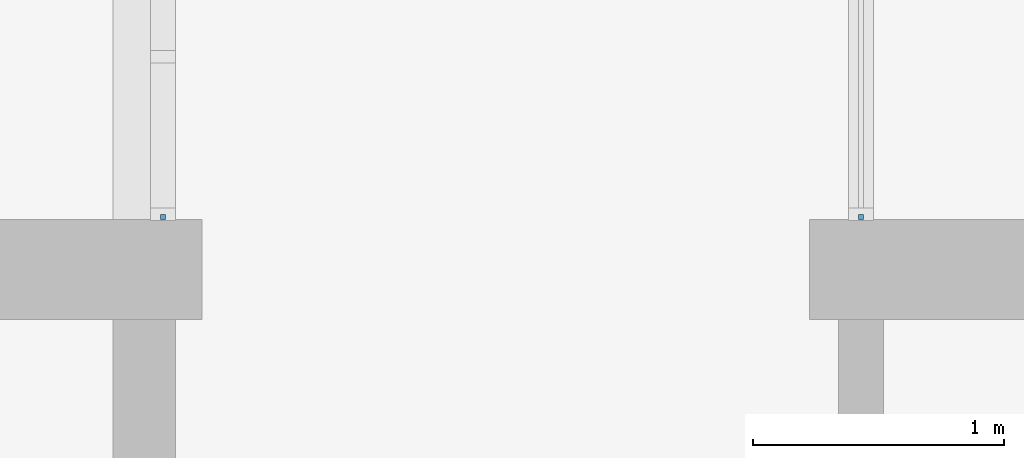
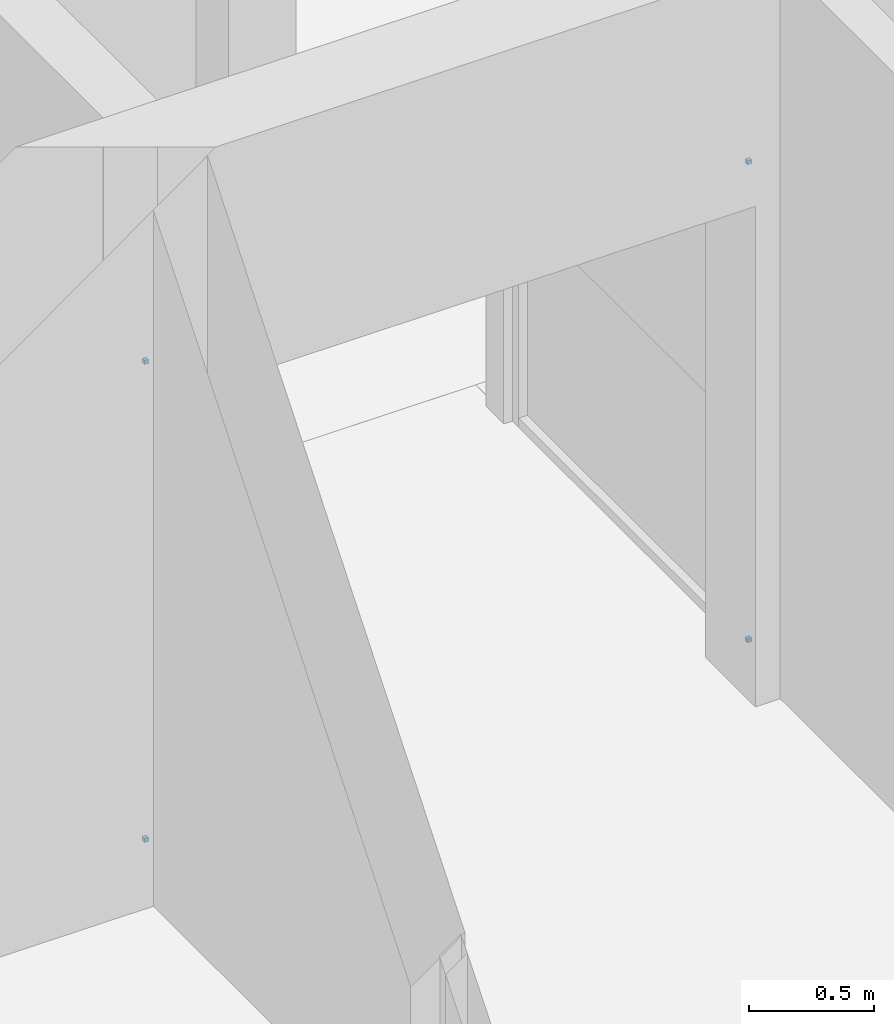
# One storey, part 58 of 117: 4 plates, 2 elements without a shape of their own.
"""IFC4 building model written with IfcOpenShell, lengths in metres."""

import ifcopenshell
import ifcopenshell.guid

model = None  # the IFC model being written
_history = None  # IfcOwnerHistory: only IFC2X3 demands one
_inside = {}  # id of a spatial element -> (the spatial element, [elements in it])
_under = {}  # id of a project, library or spatial element -> (it, [spatial elements below it])
_declared = {}  # id of a project -> (the project, [libraries it declares])
_typed = {}  # id of a type object -> (the type object, [elements of that type])
_made_of = {}  # id of a material, layer set ... -> (it, [elements and type objects made of it])


def new_model(schema):
    """Start an empty IFC model of exactly this schema.

    Asked for "IFC4X3", IfcOpenShell would pick the latest addendum, in which some entities
    have other attributes; the version numbers below select the first issue.
    IFC2X3 requires an IfcOwnerHistory on every rooted entity: one is made here for all.
    """
    global model, _history
    if schema == "IFC4X3":
        model = ifcopenshell.file(schema_version=(4, 3, 0, 0))
    else:
        model = ifcopenshell.file(schema=schema)
    _inside.clear()
    _under.clear()
    _declared.clear()
    _typed.clear()
    _made_of.clear()
    _history = None
    if model.schema == "IFC2X3":
        org = make("IfcOrganization", Name="unknown")
        user = make(
            "IfcPersonAndOrganization",
            ThePerson=make("IfcPerson", FamilyName="unknown"),
            TheOrganization=org,
        )
        app = make(
            "IfcApplication",
            ApplicationDeveloper=org,
            Version="unknown",
            ApplicationFullName="unknown",
            ApplicationIdentifier="unknown",
        )
        _history = make(
            "IfcOwnerHistory",
            OwningUser=user,
            OwningApplication=app,
            ChangeAction="ADDED",
            CreationDate=0,
        )
    return model


def make(cls, **values):
    """One entity of the class cls with the attributes given. An attribute that is None is left unset."""
    return model.create_entity(
        cls, **{name: value for name, value in values.items() if value is not None}
    )


def entity(cls, *values):
    """Any entity or typed value of the class cls, its attributes in the order of the schema. None: left unset."""
    e = model.create_entity(cls)
    for i, value in enumerate(values):
        if value is not None:
            e[i] = value
    return e


def rooted(cls, **values):
    """An entity with a GlobalId (a new one), such as an element, a storey or a relation."""
    return make(cls, GlobalId=ifcopenshell.guid.new(), OwnerHistory=_history, **values)


def si_unit(unit_type, name, prefix=None):
    """IfcSIUnit, for example si_unit("LENGTHUNIT", "METRE", prefix="MILLI")."""
    return make("IfcSIUnit", UnitType=unit_type, Prefix=prefix, Name=name)


def converted_unit(unit_type, name, factor, base, dimensions=None, offset=None):
    """IfcConversionBasedUnit, such as the inch: factor (a typed value) times the base unit."""
    return make(
        "IfcConversionBasedUnit"
        if offset is None
        else "IfcConversionBasedUnitWithOffset",
        ConversionOffset=offset,
        Dimensions=None
        if dimensions is None
        else entity("IfcDimensionalExponents", *dimensions),
        UnitType=unit_type,
        Name=name,
        ConversionFactor=make(
            "IfcMeasureWithUnit", ValueComponent=factor, UnitComponent=base
        ),
    )


def derived_unit(unit_type, elements):
    """IfcDerivedUnit: a product of units, each with its exponent."""
    return make(
        "IfcDerivedUnit",
        Elements=[
            make("IfcDerivedUnitElement", Unit=unit, Exponent=power)
            for unit, power in elements
        ],
        UnitType=unit_type,
    )


def assignment(units):
    """IfcUnitAssignment: the units of a project."""
    return None if units is None else make("IfcUnitAssignment", Units=units)


def point(xyz):
    """IfcCartesianPoint."""
    return None if xyz is None else make("IfcCartesianPoint", Coordinates=xyz)


def direction(xyz):
    """IfcDirection."""
    return None if xyz is None else make("IfcDirection", DirectionRatios=xyz)


def frame(location, z_axis=None, x_axis=None):
    """IfcAxis2Placement3D, a coordinate frame: its origin and axes. An axis left out is left unset."""
    return make(
        "IfcAxis2Placement3D",
        Location=point(location),
        Axis=direction(z_axis),
        RefDirection=direction(x_axis),
    )


def origin():
    """The frame at (0, 0, 0) with its axes left unset."""
    return frame((0.0, 0.0, 0.0))


def place(relative_to, where):
    """IfcLocalPlacement: puts the frame where relative to a parent placement (None: the world)."""
    return make(
        "IfcLocalPlacement", PlacementRelTo=relative_to, RelativePlacement=where
    )


def context(
    kind, dimensions, precision=None, world=None, true_north=None, identifier=None
):
    """IfcGeometricRepresentationContext, for example the 3D "Model" context."""
    return make(
        "IfcGeometricRepresentationContext",
        ContextIdentifier=identifier,
        ContextType=kind,
        CoordinateSpaceDimension=dimensions,
        Precision=precision,
        WorldCoordinateSystem=world,
        TrueNorth=true_north,
    )


def subcontext(parent, identifier, kind, view, scale=None):
    """IfcGeometricRepresentationSubContext, for example "Body" below "Model"."""
    return make(
        "IfcGeometricRepresentationSubContext",
        ContextIdentifier=identifier,
        ContextType=kind,
        ParentContext=parent,
        TargetScale=scale,
        TargetView=view,
    )


def project(units=None, contexts=None):
    """IfcProject with its units and contexts."""
    return rooted(
        "IfcProject",
        Name="project",
        RepresentationContexts=contexts,
        UnitsInContext=assignment(units),
    )


def spatial(cls, under=None, at=None, **own):
    """A site, building, storey or space (cls), placed at a placement, below another one or the project."""
    s = rooted(cls, ObjectPlacement=at, **own)
    if under is not None:
        _under.setdefault(under.id(), (under, []))[1].append(s)
    return s


def point_list(points):
    """IfcCartesianPointList2D or 3D."""
    cls = (
        "IfcCartesianPointList2D" if len(points[0]) == 2 else "IfcCartesianPointList3D"
    )
    return make(cls, CoordList=points)


def indexed_curve(points, segments=None, self_intersect=None):
    """IfcIndexedPolyCurve: lines and arcs through numbered points (the first is 1)."""
    return make(
        "IfcIndexedPolyCurve",
        Points=point_list(points),
        Segments=segments,
        SelfIntersect=self_intersect,
    )


def outline(outer, holes=None, kind="AREA"):
    """IfcArbitraryClosedProfileDef: a profile drawn as a closed curve; with holes, ...WithVoids."""
    if holes is None:
        return make("IfcArbitraryClosedProfileDef", ProfileType=kind, OuterCurve=outer)
    return make(
        "IfcArbitraryProfileDefWithVoids",
        ProfileType=kind,
        OuterCurve=outer,
        InnerCurves=holes,
    )


def extrude(swept, where, along, depth):
    """IfcExtrudedAreaSolid: the profile swept, set in the frame where, extruded along a direction by depth."""
    return make(
        "IfcExtrudedAreaSolid",
        SweptArea=swept,
        Position=where,
        ExtrudedDirection=direction(along),
        Depth=depth,
    )


def shape(context_of_items, identifier, shape_type, items):
    """IfcShapeRepresentation: the items that make up one representation, for example the "Body"."""
    return make(
        "IfcShapeRepresentation",
        ContextOfItems=context_of_items,
        RepresentationIdentifier=identifier,
        RepresentationType=shape_type,
        Items=items,
    )


def source(mapping_origin, context_of_items, identifier, shape_type, items):
    """IfcRepresentationMap: a shape defined once, which mapped items show again and again."""
    return make(
        "IfcRepresentationMap",
        MappingOrigin=mapping_origin,
        MappedRepresentation=shape(context_of_items, identifier, shape_type, items),
    )


def transform(
    local_origin,
    x_axis=None,
    y_axis=None,
    z_axis=None,
    scale=None,
    scale2=None,
    scale3=None,
    uniform=True,
):
    """IfcCartesianTransformationOperator3D, or its non-uniform kind. x_axis, y_axis, z_axis: its Axis1, 2, 3."""
    if uniform:
        return make(
            "IfcCartesianTransformationOperator3D",
            Axis1=direction(x_axis),
            Axis2=direction(y_axis),
            LocalOrigin=point(local_origin),
            Scale=scale,
            Axis3=direction(z_axis),
        )
    return make(
        "IfcCartesianTransformationOperator3DnonUniform",
        Axis1=direction(x_axis),
        Axis2=direction(y_axis),
        LocalOrigin=point(local_origin),
        Scale=scale,
        Axis3=direction(z_axis),
        Scale2=scale2,
        Scale3=scale3,
    )


def mapped(mapping_source, mapping_target):
    """IfcMappedItem: shows the shape of a source again, moved by a transform."""
    return make(
        "IfcMappedItem", MappingSource=mapping_source, MappingTarget=mapping_target
    )


def material(Name=None, Category=None):
    """IfcMaterial."""
    return make("IfcMaterial", Name=Name, Category=Category)


def made_of(thing, what):
    """Note that an element or type object is made of a material, layer set ...; save() writes the relation."""
    if what is not None:
        _made_of.setdefault(what.id(), (what, []))[1].append(thing)
    return thing


def type_object(cls, material=None, **own):
    """A type object (cls), such as IfcWallType, which elements share."""
    return made_of(rooted(cls, **own), material)


def type_shapes(of_type, sources):
    """Give a type object the sources (RepresentationMaps) that its elements show as mapped items."""
    of_type.RepresentationMaps = sources


def element(
    cls,
    number,
    at=None,
    inside=None,
    cuts=None,
    type_object=None,
    material=None,
    context=None,
    identifier="Body",
    shape_type=None,
    held_by="IfcProductDefinitionShape",
    body=None,
    shapes=None,
    **own,
):
    """One element of the class cls, such as IfcWall. Its Tag is "e" and its number.

    at: its placement. inside: the storey or other place that contains it. cuts: it is an
    opening in that element (IfcRelVoidsElement). A single representation is given by context,
    identifier, shape_type and body (its items); several are given by shapes. held_by: the class
    of the entity that holds the representations. save() writes the other relations.
    """
    e = rooted(cls, Tag="e%d" % number, ObjectPlacement=at, **own)
    if body is not None:
        shapes = [shape(context, identifier, shape_type, body)]
    if shapes is not None:
        e.Representation = make(held_by, Representations=shapes)
    if inside is not None:
        _inside.setdefault(inside.id(), (inside, []))[1].append(e)
    if cuts is not None:
        rooted(
            "IfcRelVoidsElement", RelatingBuildingElement=cuts, RelatedOpeningElement=e
        )
    if type_object is not None:
        _typed.setdefault(type_object.id(), (type_object, []))[1].append(e)
    return made_of(e, material)


def aggregate(whole, parts):
    """IfcRelAggregates: a whole, such as a stair, and the parts it consists of."""
    return rooted("IfcRelAggregates", RelatingObject=whole, RelatedObjects=parts)


def save(model, path):
    """Write the relations noted so far, then the file.

    IfcRelAggregates (storeys below a building ...), IfcRelContainedInSpatialStructure (elements
    in a storey), IfcRelDefinesByType, IfcRelAssociatesMaterial and IfcRelDeclares: one each for
    every whole, place, type object, material and project.
    """
    for whole, parts in _under.values():
        aggregate(whole, parts)
    for where, things in _inside.values():
        rooted(
            "IfcRelContainedInSpatialStructure",
            RelatedElements=things,
            RelatingStructure=where,
        )
    for kind, things in _typed.values():
        rooted("IfcRelDefinesByType", RelatedObjects=things, RelatingType=kind)
    for what, things in _made_of.values():
        rooted("IfcRelAssociatesMaterial", RelatedObjects=things, RelatingMaterial=what)
    for by, libraries in _declared.values():
        rooted("IfcRelDeclares", RelatingContext=by, RelatedDefinitions=libraries)
    model.write(path)


model = new_model("IFC4")

# Units and contexts
model_context = context("Model", 3, precision=1e-05, world=origin(), true_north=direction((6.123031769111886e-17, 1.0)))
body_context = subcontext(model_context, "Body", "Model", "MODEL_VIEW")
ifc_project = project(units=[si_unit("LENGTHUNIT", "METRE"), si_unit("AREAUNIT", "SQUARE_METRE"), si_unit("VOLUMEUNIT", "CUBIC_METRE"), converted_unit("PLANEANGLEUNIT", "DEGREE", entity("IfcRatioMeasure", 0.017453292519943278), si_unit("PLANEANGLEUNIT", "RADIAN"), dimensions=[0, 0, 0, 0, 0, 0, 0]), si_unit("MASSUNIT", "GRAM", prefix="KILO"), derived_unit("MASSDENSITYUNIT", [(si_unit("MASSUNIT", "GRAM", prefix="KILO"), 1), (si_unit("LENGTHUNIT", "METRE"), -3)]), derived_unit("MOMENTOFINERTIAUNIT", [(si_unit("LENGTHUNIT", "METRE"), 4)]), si_unit("TIMEUNIT", "SECOND"), si_unit("FREQUENCYUNIT", "HERTZ"), si_unit("THERMODYNAMICTEMPERATUREUNIT", "DEGREE_CELSIUS"), derived_unit("THERMALTRANSMITTANCEUNIT", [(si_unit("MASSUNIT", "GRAM", prefix="KILO"), 1), (si_unit("THERMODYNAMICTEMPERATUREUNIT", "KELVIN"), -1), (si_unit("TIMEUNIT", "SECOND"), -3)]), derived_unit("VOLUMETRICFLOWRATEUNIT", [(si_unit("LENGTHUNIT", "METRE"), 3), (si_unit("TIMEUNIT", "SECOND"), -1)]), derived_unit("MASSFLOWRATEUNIT", [(si_unit("MASSUNIT", "GRAM", prefix="KILO"), 1), (si_unit("TIMEUNIT", "SECOND"), -1)]), derived_unit("ROTATIONALFREQUENCYUNIT", [(si_unit("TIMEUNIT", "SECOND"), -1)]), si_unit("ELECTRICCURRENTUNIT", "AMPERE"), si_unit("ELECTRICVOLTAGEUNIT", "VOLT"), si_unit("POWERUNIT", "WATT"), si_unit("FORCEUNIT", "NEWTON", prefix="KILO"), si_unit("ILLUMINANCEUNIT", "LUX"), si_unit("LUMINOUSFLUXUNIT", "LUMEN"), si_unit("LUMINOUSINTENSITYUNIT", "CANDELA"), derived_unit("USERDEFINED", [(si_unit("MASSUNIT", "GRAM", prefix="KILO"), -1), (si_unit("LENGTHUNIT", "METRE"), -2), (si_unit("TIMEUNIT", "SECOND"), 3), (si_unit("LUMINOUSFLUXUNIT", "LUMEN"), 1)]), derived_unit("SOUNDPOWERUNIT", [(si_unit("MASSUNIT", "GRAM", prefix="KILO"), 1), (si_unit("LENGTHUNIT", "METRE"), 2), (si_unit("TIMEUNIT", "SECOND"), -3)]), derived_unit("SOUNDPRESSUREUNIT", [(si_unit("MASSUNIT", "GRAM", prefix="KILO"), 1), (si_unit("LENGTHUNIT", "METRE"), -1), (si_unit("TIMEUNIT", "SECOND"), -2)]), derived_unit("LINEARVELOCITYUNIT", [(si_unit("LENGTHUNIT", "METRE"), 1), (si_unit("TIMEUNIT", "SECOND"), -1)]), si_unit("PRESSUREUNIT", "PASCAL"), derived_unit("USERDEFINED", [(si_unit("LENGTHUNIT", "METRE"), -2), (si_unit("MASSUNIT", "GRAM", prefix="KILO"), 1), (si_unit("TIMEUNIT", "SECOND"), -2)]), derived_unit("LINEARFORCEUNIT", [(si_unit("MASSUNIT", "GRAM", prefix="KILO"), 1), (si_unit("LENGTHUNIT", "METRE"), 1), (si_unit("TIMEUNIT", "SECOND"), -2), (si_unit("LENGTHUNIT", "METRE"), -1)]), derived_unit("PLANARFORCEUNIT", [(si_unit("MASSUNIT", "GRAM", prefix="KILO"), 1), (si_unit("LENGTHUNIT", "METRE"), 1), (si_unit("TIMEUNIT", "SECOND"), -2), (si_unit("LENGTHUNIT", "METRE"), -2)])], contexts=[model_context])

# Site, building, storey
site_placement = place(None, origin())
site = spatial("IfcSite", under=ifc_project, at=site_placement, Name="Superficie", CompositionType="ELEMENT")
building_placement = place(site_placement, origin())
building = spatial("IfcBuilding", under=site, at=building_placement, CompositionType="ELEMENT")
storey_placement = place(building_placement, origin())
storey = spatial("IfcBuildingStorey", under=building, at=storey_placement, Name="Nivel 0", CompositionType="ELEMENT", Elevation=0.0)

# Curtain wall, plates
curtain_wall_type = type_object("IfcCurtainWallType", Name="Muro cortina:Muro cortina - simple", PredefinedType="NOTDEFINED")
curtain_wall_1_placement = place(storey_placement, origin())
curtain_wall_1 = element("IfcCurtainWall", 1, at=curtain_wall_1_placement, inside=storey, type_object=curtain_wall_type, Name="Muro cortina:Muro cortina - simple", ObjectType="Muro cortina:Muro cortina - simple", PredefinedType="NOTDEFINED")
ifc_material = material(Name="Cristal", Category="Vidrio")
plate_type_1 = type_object("IfcPlateType", Name="Panel de sistema:Acristalado", PredefinedType="CURTAIN_PANEL", material=ifc_material)
shared_shape_1 = source(origin(), body_context, "Body", "SweptSolid", [
    extrude(outline(indexed_curve([(-0.01, -0.009999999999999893), (0.01, -0.009999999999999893), (0.01, 0.009999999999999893), (-0.01, 0.009999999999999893), (-0.01, -0.009999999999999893)], self_intersect=False)), frame((0.0, 0.0, 0.0), z_axis=(0.0, 0.0, 1.0), x_axis=(0.0, 1.0, 0.0)), (0.0, 0.0, 1.0), 0.02000000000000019),
])
type_shapes(plate_type_1, [shared_shape_1])
plate_1_placement = place(curtain_wall_1_placement, frame((-15.413200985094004, 10.780829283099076, 0.0), z_axis=(0.0, 0.0, 1.0), x_axis=(0.0, -1.0, 0.0)))
plate_1 = element("IfcPlate", 2, at=plate_1_placement, type_object=plate_type_1, material=ifc_material, Name="Panel de sistema:Acristalado", ObjectType="Panel de sistema:Acristalado", PredefinedType="CURTAIN_PANEL", context=body_context, shape_type="MappedRepresentation", body=[
    mapped(shared_shape_1, transform((0.0, 0.0, 0.0), scale=1.0)),
])
plate_2_placement = place(curtain_wall_1_placement, frame((-15.413200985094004, 10.780829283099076, 2.33), z_axis=(0.0, 0.0, 1.0), x_axis=(0.0, -1.0, 0.0)))
plate_2 = element("IfcPlate", 3, at=plate_2_placement, type_object=plate_type_1, material=ifc_material, Name="Panel de sistema:Acristalado", ObjectType="Panel de sistema:Acristalado", PredefinedType="CURTAIN_PANEL", context=body_context, shape_type="MappedRepresentation", body=[
    mapped(shared_shape_1, transform((0.0, 0.0, 0.0), scale=1.0)),
])
aggregate(curtain_wall_1, [plate_1, plate_2])

curtain_wall_2_placement = place(storey_placement, origin())
curtain_wall_2 = element("IfcCurtainWall", 4, at=curtain_wall_2_placement, inside=storey, type_object=curtain_wall_type, Name="Muro cortina:Muro cortina - simple", ObjectType="Muro cortina:Muro cortina - simple", PredefinedType="NOTDEFINED")
plate_type_2 = type_object("IfcPlateType", Name="Panel de sistema:Acristalado", PredefinedType="CURTAIN_PANEL", material=ifc_material)
shared_shape_2 = source(origin(), body_context, "Body", "SweptSolid", [
    extrude(outline(indexed_curve([(-0.01, -0.009999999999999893), (0.01, -0.009999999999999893), (0.01, 0.009999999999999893), (-0.01, 0.009999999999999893), (-0.01, -0.009999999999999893)], self_intersect=False)), frame((0.0, 0.0, 0.0), z_axis=(0.0, 0.0, 1.0), x_axis=(0.0, 1.0, 0.0)), (0.0, 0.0, 1.0), 0.020000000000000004),
])
type_shapes(plate_type_2, [shared_shape_2])
plate_3_placement = place(curtain_wall_2_placement, frame((-18.193200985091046, 10.780829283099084, 0.0), z_axis=(0.0, 0.0, 1.0), x_axis=(0.0, 1.0, 0.0)))
plate_3 = element("IfcPlate", 5, at=plate_3_placement, type_object=plate_type_2, material=ifc_material, Name="Panel de sistema:Acristalado", ObjectType="Panel de sistema:Acristalado", PredefinedType="CURTAIN_PANEL", context=body_context, shape_type="MappedRepresentation", body=[
    mapped(shared_shape_2, transform((0.0, 0.0, 0.0), scale=1.0)),
])
plate_4_placement = place(curtain_wall_2_placement, frame((-18.193200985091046, 10.780829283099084, 2.33), z_axis=(0.0, 0.0, 1.0), x_axis=(0.0, 1.0, 0.0)))
plate_4 = element("IfcPlate", 6, at=plate_4_placement, type_object=plate_type_2, material=ifc_material, Name="Panel de sistema:Acristalado", ObjectType="Panel de sistema:Acristalado", PredefinedType="CURTAIN_PANEL", context=body_context, shape_type="MappedRepresentation", body=[
    mapped(shared_shape_2, transform((0.0, 0.0, 0.0), scale=1.0)),
])
aggregate(curtain_wall_2, [plate_3, plate_4])

save(model, "model.ifc")
